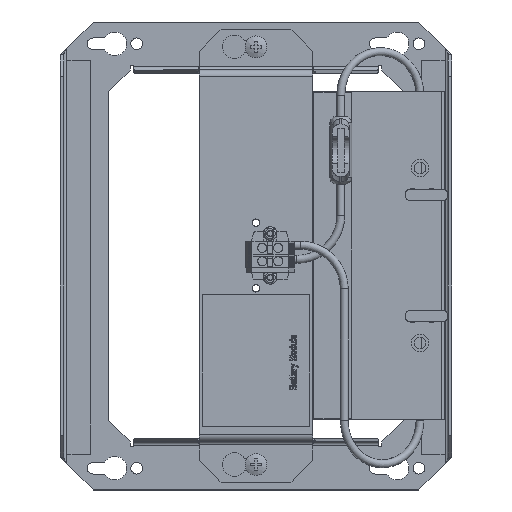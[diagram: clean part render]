
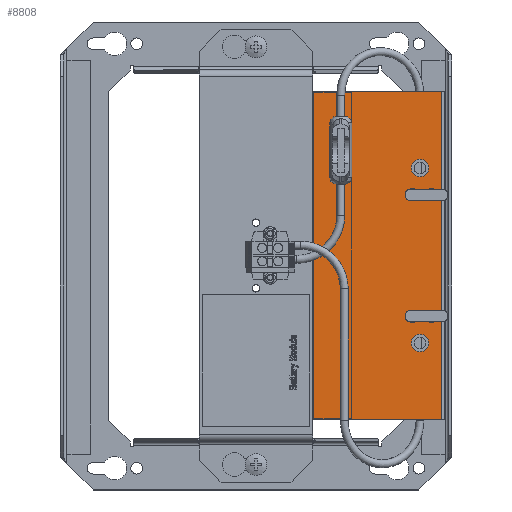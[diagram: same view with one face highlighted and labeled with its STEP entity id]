
A CAD part, top view. The second image highlights one B-rep face of the part: STEP entity #8808.
In plain terms, the highlighted planar face has unit normal (0, 0, 1).
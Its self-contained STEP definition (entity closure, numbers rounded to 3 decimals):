
#8536=CARTESIAN_POINT('',(-28.,-75.,0.5));
#8537=VERTEX_POINT('',#8536);
#8544=CARTESIAN_POINT('',(-87.0,-75.0,0.5));
#8545=VERTEX_POINT('',#8544);
#8546=CARTESIAN_POINT('',(-28.,-75.,0.5));
#8547=DIRECTION('',(-1.0,0.0,0.0));
#8548=VECTOR('',#8547,59.);
#8549=LINE('',#8546,#8548);
#8550=EDGE_CURVE('',#8537,#8545,#8549,.T.);
#8615=CARTESIAN_POINT('',(-87.0,75.0,0.5));
#8616=VERTEX_POINT('',#8615);
#8624=CARTESIAN_POINT('',(-28.,75.,0.5));
#8625=VERTEX_POINT('',#8624);
#8626=CARTESIAN_POINT('',(-87.0,75.0,0.5));
#8627=DIRECTION('',(1.0,0.0,0.0));
#8628=VECTOR('',#8627,59.);
#8629=LINE('',#8626,#8628);
#8630=EDGE_CURVE('',#8616,#8625,#8629,.T.);
#8699=CARTESIAN_POINT('',(-87.0,75.0,0.5));
#8700=DIRECTION('',(0.0,-1.0,0.0));
#8701=VECTOR('',#8700,150.0);
#8702=LINE('',#8699,#8701);
#8703=EDGE_CURVE('',#8616,#8545,#8702,.T.);
#8726=CARTESIAN_POINT('',(-58.,0.,0.5));
#8727=DIRECTION('',(0.0,0.0,1.0));
#8728=DIRECTION('',(1.0,0.0,0.0));
#8729=AXIS2_PLACEMENT_3D('',#8726,#8727,#8728);
#8730=PLANE('',#8729);
#8731=ORIENTED_EDGE('',*,*,#8703,.T.);
#8732=ORIENTED_EDGE('',*,*,#8550,.F.);
#8733=CARTESIAN_POINT('',(-28.,75.,0.5));
#8734=DIRECTION('',(0.0,-1.0,0.0));
#8735=VECTOR('',#8734,150.);
#8736=LINE('',#8733,#8735);
#8737=EDGE_CURVE('',#8625,#8537,#8736,.T.);
#8738=ORIENTED_EDGE('',*,*,#8737,.F.);
#8739=ORIENTED_EDGE('',*,*,#8630,.F.);
#8740=EDGE_LOOP('',(#8731,#8732,#8738,#8739));
#8741=FACE_OUTER_BOUND('',#8740,.T.);
#8742=CARTESIAN_POINT('',(-79.65,28.,0.5));
#8743=VERTEX_POINT('',#8742);
#8744=CARTESIAN_POINT('',(-82.4,28.,0.5));
#8745=DIRECTION('',(0.0,0.0,-1.0));
#8746=DIRECTION('',(-1.0,0.0,0.0));
#8747=AXIS2_PLACEMENT_3D('',#8744,#8745,#8746);
#8748=CIRCLE('',#8747,2.75);
#8749=EDGE_CURVE('',#8743,#8743,#8748,.T.);
#8750=ORIENTED_EDGE('',*,*,#8749,.T.);
#8751=EDGE_LOOP('',(#8750));
#8752=FACE_BOUND('',#8751,.T.);
#8753=CARTESIAN_POINT('',(-79.65,-28.,0.5));
#8754=VERTEX_POINT('',#8753);
#8755=CARTESIAN_POINT('',(-82.4,-28.,0.5));
#8756=DIRECTION('',(0.0,0.0,-1.0));
#8757=DIRECTION('',(-1.0,0.0,0.0));
#8758=AXIS2_PLACEMENT_3D('',#8755,#8756,#8757);
#8759=CIRCLE('',#8758,2.75);
#8760=EDGE_CURVE('',#8754,#8754,#8759,.T.);
#8761=ORIENTED_EDGE('',*,*,#8760,.T.);
#8762=EDGE_LOOP('',(#8761));
#8763=FACE_BOUND('',#8762,.T.);
#8764=CARTESIAN_POINT('',(-70.85,-28.0,0.5));
#8765=VERTEX_POINT('',#8764);
#8766=CARTESIAN_POINT('',(-73.6,-28.0,0.5));
#8767=DIRECTION('',(0.0,0.0,-1.0));
#8768=DIRECTION('',(-1.0,0.0,0.0));
#8769=AXIS2_PLACEMENT_3D('',#8766,#8767,#8768);
#8770=CIRCLE('',#8769,2.75);
#8771=EDGE_CURVE('',#8765,#8765,#8770,.T.);
#8772=ORIENTED_EDGE('',*,*,#8771,.T.);
#8773=EDGE_LOOP('',(#8772));
#8774=FACE_BOUND('',#8773,.T.);
#8775=CARTESIAN_POINT('',(-70.85,28.,0.5));
#8776=VERTEX_POINT('',#8775);
#8777=CARTESIAN_POINT('',(-73.6,28.,0.5));
#8778=DIRECTION('',(0.0,0.0,-1.0));
#8779=DIRECTION('',(-1.0,0.0,0.0));
#8780=AXIS2_PLACEMENT_3D('',#8777,#8778,#8779);
#8781=CIRCLE('',#8780,2.75);
#8782=EDGE_CURVE('',#8776,#8776,#8781,.T.);
#8783=ORIENTED_EDGE('',*,*,#8782,.T.);
#8784=EDGE_LOOP('',(#8783));
#8785=FACE_BOUND('',#8784,.T.);
#8786=CARTESIAN_POINT('',(-73.,40.,0.5));
#8787=VERTEX_POINT('',#8786);
#8788=CARTESIAN_POINT('',(-77.,40.,0.5));
#8789=DIRECTION('',(0.0,0.0,-1.0));
#8790=DIRECTION('',(-1.0,0.0,0.0));
#8791=AXIS2_PLACEMENT_3D('',#8788,#8789,#8790);
#8792=CIRCLE('',#8791,4.0);
#8793=EDGE_CURVE('',#8787,#8787,#8792,.T.);
#8794=ORIENTED_EDGE('',*,*,#8793,.T.);
#8795=EDGE_LOOP('',(#8794));
#8796=FACE_BOUND('',#8795,.T.);
#8797=CARTESIAN_POINT('',(-73.,-40.,0.5));
#8798=VERTEX_POINT('',#8797);
#8799=CARTESIAN_POINT('',(-77.,-40.,0.5));
#8800=DIRECTION('',(0.0,0.0,-1.0));
#8801=DIRECTION('',(-1.0,0.0,0.0));
#8802=AXIS2_PLACEMENT_3D('',#8799,#8800,#8801);
#8803=CIRCLE('',#8802,4.0);
#8804=EDGE_CURVE('',#8798,#8798,#8803,.T.);
#8805=ORIENTED_EDGE('',*,*,#8804,.T.);
#8806=EDGE_LOOP('',(#8805));
#8807=FACE_BOUND('',#8806,.T.);
#8808=ADVANCED_FACE('',(#8741,#8752,#8763,#8774,#8785,#8796,#8807),#8730,.T.);
